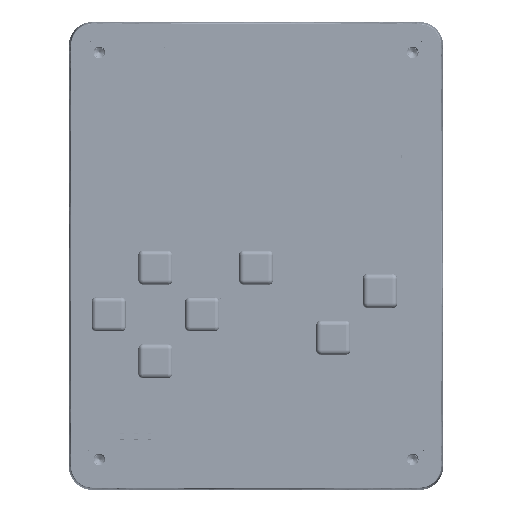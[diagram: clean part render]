
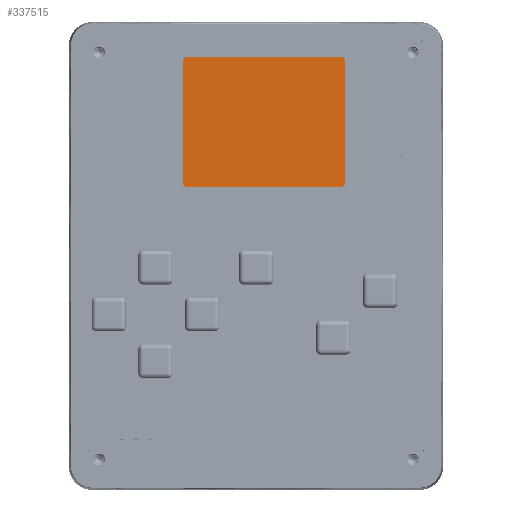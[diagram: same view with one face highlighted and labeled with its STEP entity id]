
A CAD part, top view. The second image highlights one B-rep face of the part: STEP entity #337515.
In plain terms, the highlighted planar face has unit normal (0, 0, 1).
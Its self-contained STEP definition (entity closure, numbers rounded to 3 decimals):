
#59683 = DIRECTION ( 'NONE',  ( 0., 1., 0. ) ) ;
#68416 = ORIENTED_EDGE ( 'NONE', *, *, #298034, .T. ) ;
#70224 = CARTESIAN_POINT ( 'NONE',  ( -14.015, -14.45, 4.2 ) ) ;
#79884 = VECTOR ( 'NONE', #97252, 1000. ) ;
#88355 = EDGE_CURVE ( 'NONE', #231369, #152454, #208072, .T. ) ;
#92154 = VECTOR ( 'NONE', #360556, 1000. ) ;
#97252 = DIRECTION ( 'NONE',  ( 0., -1., 0. ) ) ;
#104855 = ORIENTED_EDGE ( 'NONE', *, *, #88355, .T. ) ;
#119461 = CARTESIAN_POINT ( 'NONE',  ( 14.015, 20.05, 4.2 ) ) ;
#120295 = EDGE_LOOP ( 'NONE', ( #104855, #68416, #221823, #155969 ) ) ;
#123185 = LINE ( 'NONE', #119461, #256913 ) ;
#129636 = FACE_OUTER_BOUND ( 'NONE', #120295, .T. ) ;
#131182 = VERTEX_POINT ( 'NONE', #137329 ) ;
#137329 = CARTESIAN_POINT ( 'NONE',  ( 14.015, 20.05, 4.2 ) ) ;
#142282 = CARTESIAN_POINT ( 'NONE',  ( 14.015, -14.45, 4.2 ) ) ;
#152454 = VERTEX_POINT ( 'NONE', #70224 ) ;
#155969 = ORIENTED_EDGE ( 'NONE', *, *, #246834, .T. ) ;
#173691 = VECTOR ( 'NONE', #59683, 1000. ) ;
#204757 = CARTESIAN_POINT ( 'NONE',  ( 14.015, -14.45, 4.2 ) ) ;
#208072 = LINE ( 'NONE', #291875, #79884 ) ;
#208944 = VERTEX_POINT ( 'NONE', #142282 ) ;
#212147 = LINE ( 'NONE', #269324, #92154 ) ;
#221823 = ORIENTED_EDGE ( 'NONE', *, *, #257923, .T. ) ;
#231369 = VERTEX_POINT ( 'NONE', #327544 ) ;
#246834 = EDGE_CURVE ( 'NONE', #131182, #231369, #123185, .T. ) ;
#256913 = VECTOR ( 'NONE', #348212, 1000. ) ;
#257923 = EDGE_CURVE ( 'NONE', #208944, #131182, #294191, .T. ) ;
#260989 = DIRECTION ( 'NONE',  ( 0., 0., 1. ) ) ;
#269324 = CARTESIAN_POINT ( 'NONE',  ( 14.015, -14.45, 4.2 ) ) ;
#285788 = DIRECTION ( 'NONE',  ( 1., 0., 0. ) ) ;
#291875 = CARTESIAN_POINT ( 'NONE',  ( -14.015, -14.45, 4.2 ) ) ;
#294191 = LINE ( 'NONE', #204757, #173691 ) ;
#296783 = AXIS2_PLACEMENT_3D ( 'NONE', #331738, #260989, #285788 ) ;
#298034 = EDGE_CURVE ( 'NONE', #152454, #208944, #212147, .T. ) ;
#327544 = CARTESIAN_POINT ( 'NONE',  ( -14.015, 20.05, 4.2 ) ) ;
#331738 = CARTESIAN_POINT ( 'NONE',  ( 0., 0., 4.2 ) ) ;
#337314 = PLANE ( 'NONE',  #296783 ) ;
#337515 = ADVANCED_FACE ( 'NONE', ( #129636 ), #337314, .T. ) ;
#348212 = DIRECTION ( 'NONE',  ( -1., 0., 0. ) ) ;
#360556 = DIRECTION ( 'NONE',  ( 1., 0., 0. ) ) ;
